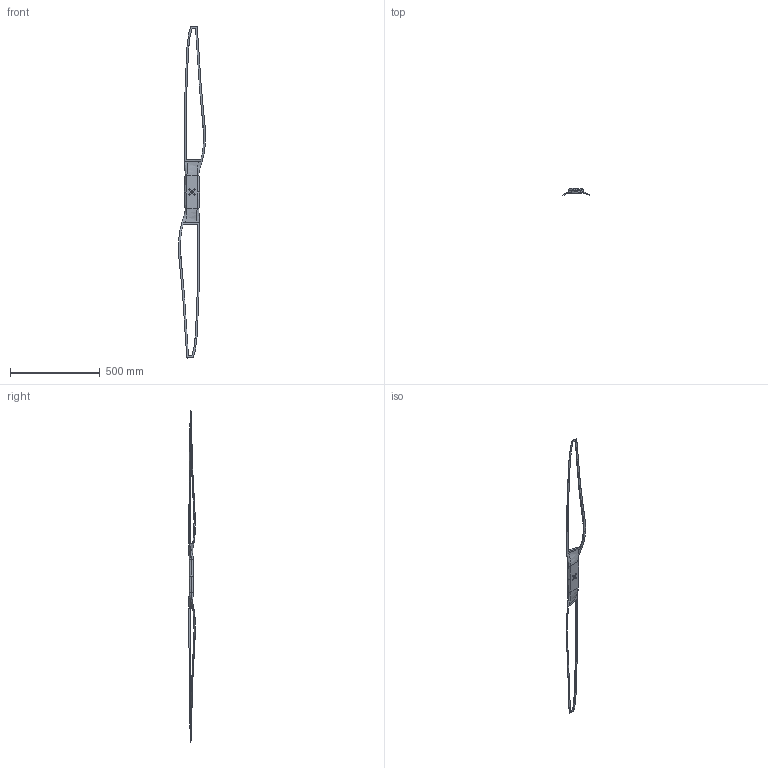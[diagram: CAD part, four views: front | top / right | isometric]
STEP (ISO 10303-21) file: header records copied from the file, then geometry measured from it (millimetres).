
FILE_DESCRIPTION (( 'STEP AP214' ), '1' );
FILE_NAME ('EZ7325.STEP', '2026-07-20T01:37:06', ( '' ), ( '' ), 'SwSTEP 2.0', 'SolidWorks 2022', '' );
FILE_SCHEMA (( 'AUTOMOTIVE_DESIGN' ));
Length unit declared in the file: millimetre
Products named in the file (1): EZ7325
Bounding box: 151.38 x 38.9 x 1854.2 mm (x, y, z)
Volume: 627456.7 mm3; surface area: 155468.7 mm2
Topology: 1 solids, 1 shells, 70 faces, 166 edges, 98 vertices
Faces by surface type: bspline 50, cylinder 12, plane 8
Entity records: 31545 total; most frequent: CARTESIAN_POINT 30218, ORIENTED_EDGE 332, EDGE_CURVE 166, DIRECTION 130, B_SPLINE_CURVE_WITH_KNOTS 98, VERTEX_POINT 98, EDGE_LOOP 84, ADVANCED_FACE 70
